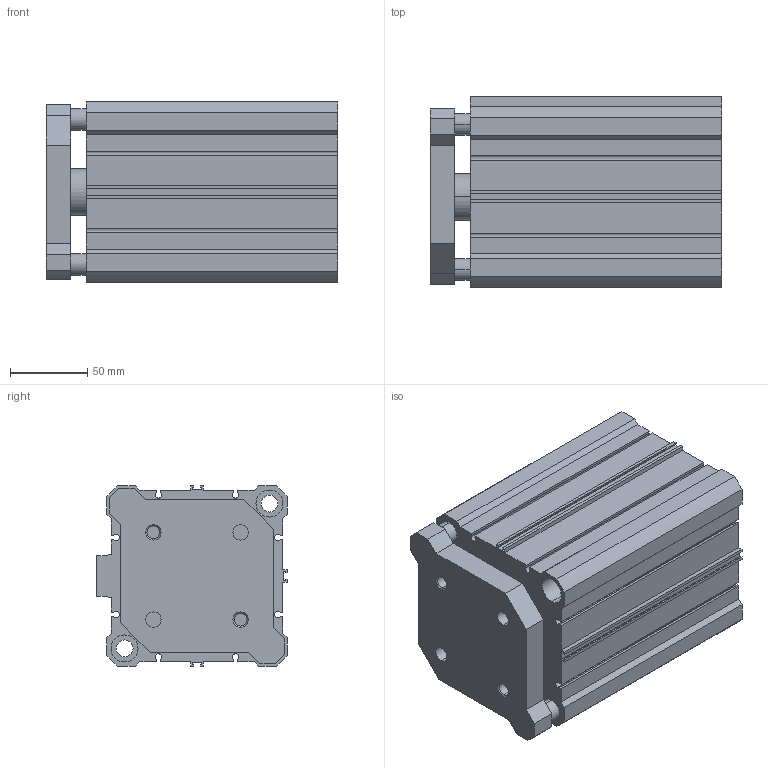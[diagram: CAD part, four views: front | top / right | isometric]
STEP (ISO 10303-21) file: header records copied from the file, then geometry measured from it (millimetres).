
FILE_DESCRIPTION (( 'STEP AP203' ), '1' );
FILE_NAME ('CCMG100-100.STEP', '2020-04-01T18:54:59', ( '' ), ( '' ), 'SwSTEP 2.0', 'SolidWorks 2019', '' );
FILE_SCHEMA (( 'CONFIG_CONTROL_DESIGN' ));
Length unit declared in the file: millimetre
Products named in the file (1): CCMG100-100
Bounding box: 189 x 123.5 x 117 mm (x, y, z)
Volume: 1497871.1 mm3; surface area: 268583.7 mm2
Topology: 2 solids, 2 shells, 194 faces, 518 edges, 338 vertices
Faces by surface type: plane 114, cylinder 64, cone 16
Entity records: 6105 total; most frequent: CARTESIAN_POINT 1047, DIRECTION 1044, ORIENTED_EDGE 1028, EDGE_CURVE 514, LINE 374, VECTOR 374, VERTEX_POINT 338, AXIS2_PLACEMENT_3D 335
